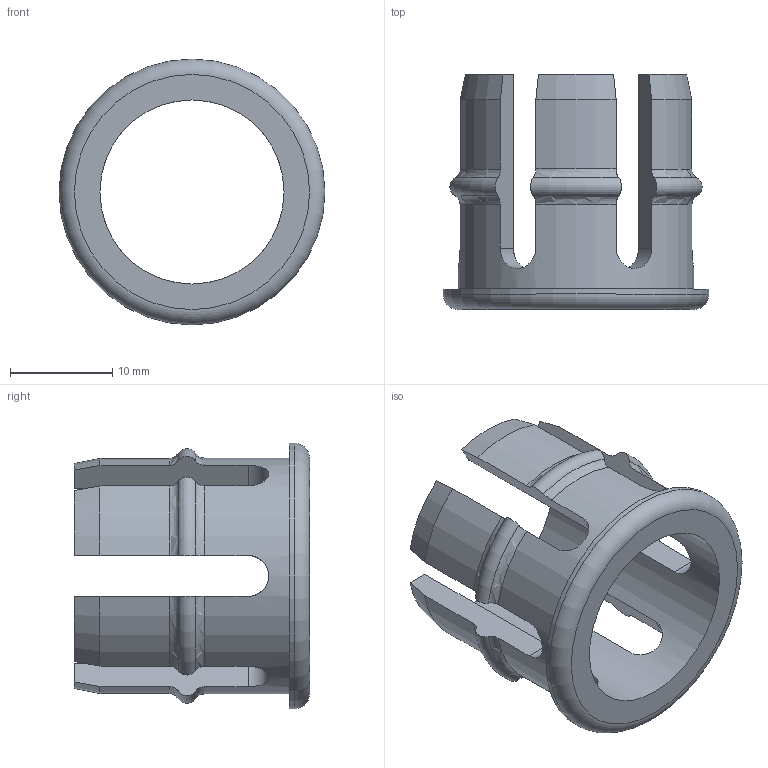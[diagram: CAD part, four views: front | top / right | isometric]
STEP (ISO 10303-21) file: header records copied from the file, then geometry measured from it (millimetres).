
FILE_DESCRIPTION(/* description */ (''),/* implementation_level */ '2;1');
FILE_NAME(/* name */ 'OTB sleeve 18.step',/* time_stamp */ '2026-09-23T15:59:42+03:00',/* author */ (''),/* organization */ (''),/* preprocessor_version */ 'ST-DEVELOPER v20.2',/* originating_system */ 'Autodesk Translation Framework v15.15.0.0',/* authorisation */ '');
FILE_SCHEMA (('AUTOMOTIVE_DESIGN { 1 0 10303 214 3 1 1 }'));
Length unit declared in the file: millimetre
Products named in the file (1): 2026-09-20-08-45-53-794
Bounding box: 26 x 23 x 26 mm (x, y, z)
Volume: 2842.2 mm3; surface area: 3176.1 mm2
Topology: 1 solids, 1 shells, 60 faces, 174 edges, 116 vertices
Faces by surface type: plane 20, torus 19, cylinder 15, cone 6
Full cylindrical faces by diameter (mm): 18 x1, 23.04 x1, 26 x1
Entity records: 2454 total; most frequent: CARTESIAN_POINT 917, ORIENTED_EDGE 348, DIRECTION 283, EDGE_CURVE 174, VERTEX_POINT 116, AXIS2_PLACEMENT_3D 110, LINE 63, VECTOR 63
